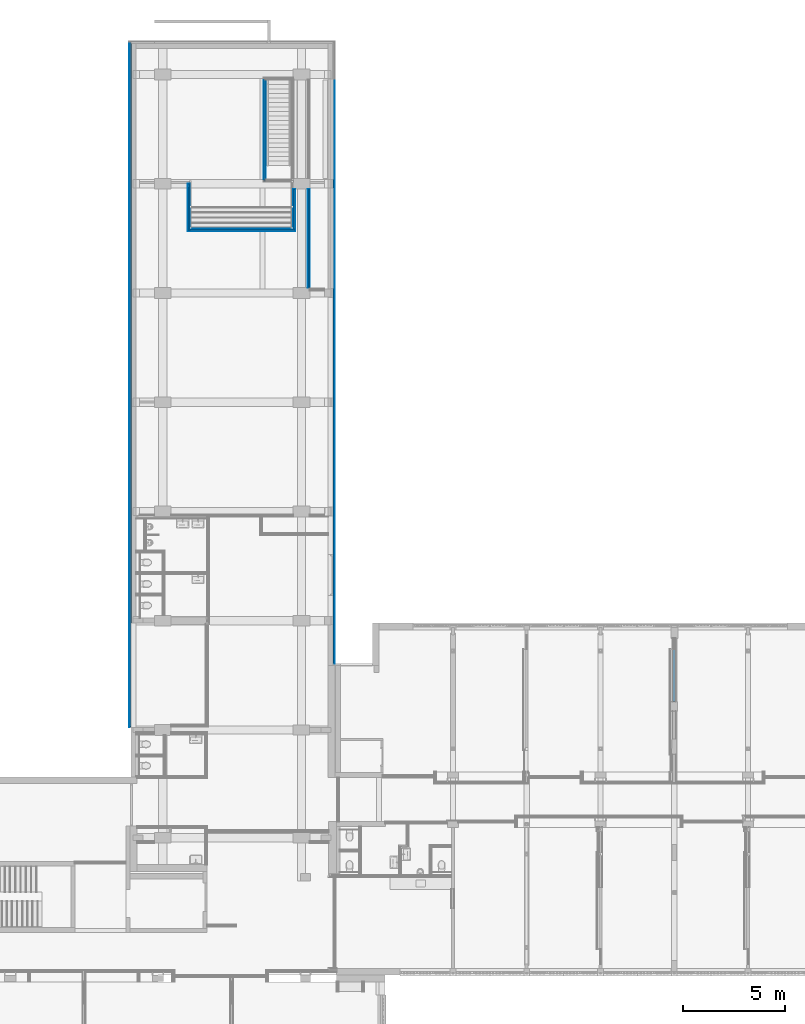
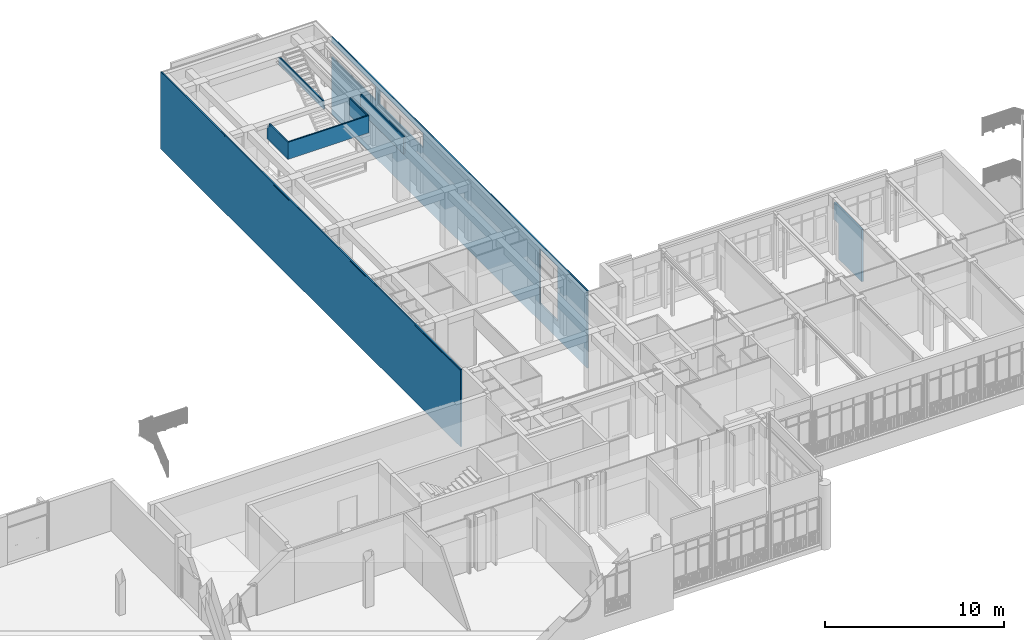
# One storey, part 113 of 135: 20 building element parts, 4 openings, 8 elements without a shape of their own.
"""IFC2X3 building model written with IfcOpenShell, lengths in millimetres."""

from ifc_helpers import new_model, entity, si_unit, converted_unit, derived_unit, money_unit, direction, frame, origin_with_axes, place, context, subcontext, project, spatial, faceted_brep, material, type_object, element, aggregate, save


model = new_model("IFC2X3")

# Units and contexts
model_context = context("Model", 3, precision=0.01, world=origin_with_axes(), true_north=direction((0.0, 1.0)))
body_context = subcontext(model_context, "Body", "Model", "MODEL_VIEW")
ifc_project = project(units=[si_unit("LENGTHUNIT", "METRE", prefix="MILLI"), si_unit("AREAUNIT", "SQUARE_METRE"), si_unit("VOLUMEUNIT", "CUBIC_METRE"), converted_unit("PLANEANGLEUNIT", "DEGREE", entity("IfcPlaneAngleMeasure", 0.0174532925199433), si_unit("PLANEANGLEUNIT", "RADIAN"), dimensions=[0, 0, 0, 0, 0, 0, 0]), money_unit("EUR"), converted_unit("TIMEUNIT", "Year", entity("IfcTimeMeasure", 31557600.0), si_unit("TIMEUNIT", "SECOND"), dimensions=[0, 0, 1, 0, 0, 0, 0]), si_unit("MASSUNIT", "GRAM", prefix="KILO"), si_unit("THERMODYNAMICTEMPERATUREUNIT", "DEGREE_CELSIUS"), si_unit("LUMINOUSINTENSITYUNIT", "LUMEN"), si_unit("ENERGYUNIT", "JOULE", prefix="MEGA"), derived_unit("THERMALCONDUCTANCEUNIT", [(si_unit("POWERUNIT", "WATT"), 1), (si_unit("LENGTHUNIT", "METRE"), -1), (si_unit("THERMODYNAMICTEMPERATUREUNIT", "KELVIN"), -1)]), derived_unit("SPECIFICHEATCAPACITYUNIT", [(si_unit("ENERGYUNIT", "JOULE"), 1), (si_unit("MASSUNIT", "GRAM", prefix="KILO"), -1), (si_unit("THERMODYNAMICTEMPERATUREUNIT", "KELVIN"), -1)]), derived_unit("MASSDENSITYUNIT", [(si_unit("MASSUNIT", "GRAM", prefix="KILO"), 1), (si_unit("VOLUMEUNIT", "CUBIC_METRE"), -1)])], contexts=[model_context])

# Site, building, storey
site_placement = place(None, origin_with_axes())
site = spatial("IfcSite", under=ifc_project, at=site_placement, Name="Site", CompositionType="ELEMENT")
building_placement = place(site_placement, origin_with_axes())
building = spatial("IfcBuilding", under=site, at=building_placement, Name="Naam gebouw", CompositionType="ELEMENT")
storey_placement = place(building_placement, origin_with_axes())
storey = spatial("IfcBuildingStorey", under=building, at=storey_placement, Name="Begane grond N", CompositionType="ELEMENT", Elevation=0.0)

# Wall, building element parts
wall_type_1 = type_object("IfcWallType", Name="Gevelstuc 90", PredefinedType="NOTDEFINED")
wall_1_placement = place(storey_placement, frame((20205.99999999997, 22755.92805130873, -1200.0), z_axis=(0.0, 0.0, 1.0), x_axis=(0.0, 1.0, 0.0)))
wall_1 = element("IfcWall", 1, at=wall_1_placement, inside=storey, type_object=wall_type_1, Name="_Wand-x")
ifc_material_1 = material(Name="stucwerk")
building_element_part_1_placement = place(wall_1_placement, origin_with_axes())
building_element_part_1 = element("IfcBuildingElementPart", 2, at=building_element_part_1_placement, material=ifc_material_1, Name="stucwerk", context=body_context, shape_type="Brep", body=[
    faceted_brep([(5074.984375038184, -5.000000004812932, 5270.000000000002), (5074.984375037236, -6.000000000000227, 5270.000000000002), (33459.98437379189, -5.999999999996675, 5270.000000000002), (33459.98437379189, 0.0, 5270.000000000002), (26769.98437498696, 0.0, 5270.000000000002), (26769.98437498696, -5.000000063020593, 5270.000000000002), (26369.98437496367, -5.000000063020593, 5270.000000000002), (26369.98437496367, 0.0, 5270.000000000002), (26304.98437501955, 0.0, 5270.000000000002), (26304.98437501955, -5.000000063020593, 5270.000000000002), (5074.984375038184, -6.000000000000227, 5180.000000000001), (5074.984375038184, -5.000000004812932, 5180.000000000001), (0.0, -6.000000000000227, 5180.000000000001), (0.0, -6.000000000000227, 0.0), (33459.98437379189, -5.999999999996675, 0.0), (33459.98437379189, 0.0, 0.0), (0.0, 0.0, 5180.000000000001), (26304.98437501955, 0.0, 5180.000000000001), (26369.98437496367, 0.0, 4980.0), (26769.98437498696, 0.0, 4980.0), (0.0, 0.0, 0.0), (26769.98437498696, -5.000000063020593, 4980.0), (26369.98437496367, -5.000000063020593, 4980.0), (26304.98437501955, -5.000000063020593, 5180.000000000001), (0.0, -5.000000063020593, 5180.000000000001)], [[[0, 1, 2, 3, 4, 5, 6, 7, 8, 9]], [[10, 1, 0, 11]], [[10, 12, 13, 14, 2, 1]], [[3, 2, 14, 15]], [[16, 17, 8, 7, 18, 19, 4, 3, 15, 20]], [[5, 4, 19, 21]], [[6, 5, 21, 22]], [[7, 6, 22, 18]], [[9, 8, 17, 23]], [[11, 0, 9, 23]], [[16, 24, 12, 10, 11, 23, 17]], [[24, 16, 20, 13, 12]], [[15, 14, 13, 20]], [[19, 18, 22, 21]]]),
])
ifc_material_2 = material(Name="Isolatie - Kunststof hard")
building_element_part_2_placement = place(wall_1_placement, origin_with_axes())
building_element_part_2 = element("IfcBuildingElementPart", 3, at=building_element_part_2_placement, material=ifc_material_2, Name="Isolatie - Kunststof hard", context=body_context, shape_type="Brep", body=[
    faceted_brep([(33453.98437379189, -5.999999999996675, 5270.000000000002), (0.0, -6.000000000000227, 5270.000000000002), (0.0, -89.99999999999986, 5270.000000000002), (33453.98437379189, -89.9999999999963, 5270.000000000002), (33453.98437379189, -5.999999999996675, 0.0), (0.0, -6.000000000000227, 0.0), (0.0, -89.99999999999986, 0.0), (33453.98437379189, -89.9999999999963, 0.0)], [[[0, 1, 2, 3]], [[4, 5, 1, 0]], [[2, 1, 5, 6]], [[3, 2, 6, 7]], [[3, 7, 4, 0]], [[7, 6, 5, 4]]]),
])
aggregate(wall_1, [building_element_part_1, building_element_part_2])

wall_type_2 = type_object("IfcWallType", Name="Metalstud iso 100 100", PredefinedType="NOTDEFINED")
wall_2_placement = place(storey_placement, frame((23160.00002619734, 49275.9124251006, 2689.99832424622), z_axis=(0.0, 0.0, 1.0), x_axis=(0.0, -1.0, 0.0)))
wall_2 = element("IfcWall", 4, at=wall_2_placement, inside=storey, type_object=wall_type_2, Name="_Wand-x")
ifc_material_3 = material(Name="Gipsplaat")
building_element_part_3_placement = place(wall_2_placement, origin_with_axes())
building_element_part_3 = element("IfcBuildingElementPart", 5, at=building_element_part_3_placement, material=ifc_material_3, Name="Gipsplaat", context=body_context, shape_type="Brep", body=[
    faceted_brep([(0.0, -12.49999999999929, 910.0016756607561), (0.0, 0.0, 910.0016756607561), (0.0, 0.0, 0.0), (0.0, -12.49999999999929, 0.0), (200.0000000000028, 0.0, 910.0016756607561), (200.0000000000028, -12.49999999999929, 910.0016756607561), (200.0000000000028, 0.0, 1160.00167575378), (2220.500008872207, 0.0, 1160.00167575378), (2220.500008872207, 0.0, 0.0), (2220.500008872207, -12.49999999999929, 0.0), (2220.500008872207, -12.49999999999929, 1160.00167575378), (200.0000000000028, -12.49999999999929, 1160.00167575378)], [[[0, 1, 2, 3]], [[4, 1, 0, 5]], [[4, 6, 7, 8, 2, 1]], [[2, 8, 9, 3]], [[5, 0, 3, 9, 10, 11]], [[11, 6, 4, 5]], [[6, 11, 10, 7]], [[8, 7, 10, 9]]]),
])
ifc_material_4 = material(Name="Isolatie - Steenwol LSW")
building_element_part_4_placement = place(wall_2_placement, origin_with_axes())
building_element_part_4 = element("IfcBuildingElementPart", 6, at=building_element_part_4_placement, material=ifc_material_4, Name="Isolatie - Steenwol LSW", context=body_context, shape_type="Brep", body=[
    faceted_brep([(0.0, -87.49999999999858, 910.0016756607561), (0.0, -12.49999999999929, 910.0016756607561), (0.0, -12.49999999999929, 0.0), (0.0, -87.49999999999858, 0.0), (200.0000000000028, -12.49999999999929, 910.0016756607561), (200.0000000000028, -87.49999999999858, 910.0016756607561), (200.0000000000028, -12.49999999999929, 1160.00167575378), (2295.500008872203, -12.49999999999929, 1160.00167575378), (2295.500008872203, -12.49999999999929, 0.0), (2295.500008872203, -87.49999999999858, 0.0), (2295.500008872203, -87.49999999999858, 1160.00167575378), (200.0000000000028, -87.49999999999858, 1160.00167575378)], [[[0, 1, 2, 3]], [[4, 1, 0, 5]], [[4, 6, 7, 8, 2, 1]], [[2, 8, 9, 3]], [[5, 0, 3, 9, 10, 11]], [[11, 6, 4, 5]], [[6, 11, 10, 7]], [[8, 7, 10, 9]]]),
])
building_element_part_5_placement = place(wall_2_placement, origin_with_axes())
building_element_part_5 = element("IfcBuildingElementPart", 7, at=building_element_part_5_placement, material=ifc_material_3, Name="Gipsplaat", context=body_context, shape_type="Brep", body=[
    faceted_brep([(0.0, -100.0000000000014, 910.0016756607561), (0.0, -87.49999999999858, 910.0016756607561), (0.0, -87.49999999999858, 0.0), (0.0, -100.0000000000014, 0.0), (200.0000000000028, -87.49999999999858, 910.0016756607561), (200.0000000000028, -100.0000000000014, 910.0016756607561), (200.0000000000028, -87.49999999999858, 1160.00167575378), (2308.000008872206, -87.49999999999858, 1160.00167575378), (2308.000008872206, -87.49999999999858, 0.0), (2308.000008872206, -100.0000000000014, 0.0), (2308.000008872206, -100.0000000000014, 1160.00167575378), (200.0000000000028, -100.0000000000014, 1160.00167575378)], [[[0, 1, 2, 3]], [[4, 1, 0, 5]], [[4, 6, 7, 8, 2, 1]], [[2, 8, 9, 3]], [[5, 0, 3, 9, 10, 11]], [[11, 6, 4, 5]], [[6, 11, 10, 7]], [[8, 7, 10, 9]]]),
])
aggregate(wall_2, [building_element_part_3, building_element_part_4, building_element_part_5])

# Wall, openings, building element parts
wall_3_placement = place(storey_placement, frame((30236.0, 54390.91242510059, -1200.0), z_axis=(0.0, 0.0, 1.0), x_axis=(0.0, -1.0, 0.0)))
wall_3 = element("IfcWall", 8, at=wall_3_placement, inside=storey, type_object=wall_type_1, Name="_Wand-x")
opening_1_placement = place(wall_3_placement, frame((2449.999999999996, 0.0, 3900.0), z_axis=(0.0, 0.0, 1.0), x_axis=(1.0, 0.0, 0.0)))
element("IfcOpeningElement", 9, at=opening_1_placement, cuts=wall_3, Name="_Merk-001", context=body_context, shape_type="Brep", body=[
    faceted_brep([(2449.999999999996, -19.99999999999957, 1000.0), (-2449.999999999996, -19.99999999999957, 1000.0), (-2449.999999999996, -91.00000000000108, 1000.0), (2449.999999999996, -91.00000000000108, 1000.0), (2449.999999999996, 1.000000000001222, 1000.0), (-2449.999999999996, 1.000000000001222, 1000.0), (-2449.999999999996, -19.99999999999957, 0.0), (-2449.999999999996, -91.00000000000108, 0.0), (2449.999999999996, -91.00000000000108, 0.0), (2449.999999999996, -19.99999999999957, 0.0), (2449.999999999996, 1.000000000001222, 0.0), (-2449.999999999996, 1.000000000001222, 0.0)], [[[0, 1, 2, 3]], [[1, 0, 4, 5]], [[1, 6, 7, 2]], [[2, 7, 8, 3]], [[9, 0, 3, 8]], [[0, 9, 10, 4]], [[4, 10, 11, 5]], [[6, 1, 5, 11]], [[6, 9, 8, 7]], [[9, 6, 11, 10]]]),
])
opening_2_placement = place(wall_3_placement, frame((7779.999999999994, 0.0, 3900.0), z_axis=(0.0, 0.0, 1.0), x_axis=(1.0, 0.0, 0.0)))
element("IfcOpeningElement", 10, at=opening_2_placement, cuts=wall_3, Name="_Merk-001", context=body_context, shape_type="Brep", body=[
    faceted_brep([(2449.999999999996, -19.99999999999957, 1000.0), (-2449.999999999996, -19.99999999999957, 1000.0), (-2449.999999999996, -91.00000000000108, 1000.0), (2449.999999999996, -91.00000000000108, 1000.0), (2449.999999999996, 1.000000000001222, 1000.0), (-2449.999999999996, 1.000000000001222, 1000.0), (-2449.999999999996, -19.99999999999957, 0.0), (-2449.999999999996, -91.00000000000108, 0.0), (2449.999999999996, -91.00000000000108, 0.0), (2449.999999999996, -19.99999999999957, 0.0), (2449.999999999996, 1.000000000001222, 0.0), (-2449.999999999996, 1.000000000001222, 0.0)], [[[0, 1, 2, 3]], [[1, 0, 4, 5]], [[1, 6, 7, 2]], [[2, 7, 8, 3]], [[9, 0, 3, 8]], [[0, 9, 10, 4]], [[4, 10, 11, 5]], [[6, 1, 5, 11]], [[6, 9, 8, 7]], [[9, 6, 11, 10]]]),
])
opening_3_placement = place(wall_3_placement, frame((24204.99999999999, 0.0, 1200.0), z_axis=(0.0, 0.0, 1.0), x_axis=(1.0, 0.0, 0.0)))
element("IfcOpeningElement", 11, at=opening_3_placement, cuts=wall_3, Name="_Merk-003", context=body_context, shape_type="Brep", body=[
    faceted_brep([(1000.0, -80.00000000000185, 3700.000000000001), (-1000.0, -79.9999999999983, 3700.000000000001), (-1000.0, -91.00000000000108, 3700.000000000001), (1000.0, -91.00000000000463, 3700.000000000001), (1000.0, 1.000000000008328, 3700.000000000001), (-1000.0, 1.00000000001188, 3700.000000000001), (-1000.0, -79.9999999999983, 0.0), (-1000.0, -91.00000000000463, 0.0), (1000.0, -91.00000000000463, 0.0), (1000.0, -80.00000000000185, 0.0), (1000.0, 1.000000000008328, 0.0), (-1000.0, 1.00000000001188, 0.0)], [[[0, 1, 2, 3]], [[1, 0, 4, 5]], [[1, 6, 7, 2]], [[2, 7, 8, 3]], [[9, 0, 3, 8]], [[0, 9, 10, 4]], [[4, 10, 11, 5]], [[6, 1, 5, 11]], [[6, 9, 8, 7]], [[9, 6, 11, 10]]]),
])
building_element_part_6_placement = place(wall_3_placement, origin_with_axes())
building_element_part_6 = element("IfcBuildingElementPart", 12, at=building_element_part_6_placement, material=ifc_material_1, Name="stucwerk", context=body_context, shape_type="Brep", body=[
    faceted_brep([(28530.01539902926, -6.00000000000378, 5270.000000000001), (0.0, -6.000000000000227, 5270.000000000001), (0.0, -6.000000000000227, 4900.0), (4899.999999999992, -6.000000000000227, 4900.0), (4899.999999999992, -6.000000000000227, 3906.347771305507), (4899.999999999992, -6.000000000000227, 3904.316918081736), (4899.999999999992, -6.000000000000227, 3900.0), (0.0, -6.000000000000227, 3900.0), (0.0, -6.000000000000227, 0.0), (28530.01539902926, -6.00000000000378, 0.0), (15210.99999882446, -6.000000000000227, 4350.000000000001), (21678.99999881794, -6.00000000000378, 4350.000000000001), (21678.99999881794, -6.00000000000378, 4180.000000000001), (15210.99999882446, -6.000000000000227, 4180.000000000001), (10229.99999999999, -6.000000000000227, 3904.316918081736), (10229.99999999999, -6.000000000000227, 3900.0), (5329.999999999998, -6.000000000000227, 3900.0), (5329.999999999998, -6.000000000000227, 3904.316918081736), (5329.999999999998, -6.000000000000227, 3906.347771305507), (5329.999999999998, -6.000000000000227, 4900.0), (10229.99999999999, -6.000000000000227, 4900.0), (10229.99999999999, -6.000000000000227, 3906.347771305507), (25204.99999999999, -6.00000000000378, 1200.0), (23204.99999999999, -6.00000000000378, 1200.0), (23204.99999999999, -6.00000000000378, 4900.000000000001), (25204.99999999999, -6.00000000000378, 4900.000000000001), (28530.01539902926, 0.0, 5270.000000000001), (0.0, 0.0, 5270.000000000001), (0.0, 0.0, 4900.0), (4899.999999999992, 0.0, 4900.0), (4899.999999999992, 0.0, 3905.289809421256), (4899.999999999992, 0.0, 3903.258956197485), (4899.999999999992, 0.0, 3900.0), (0.0, 0.0, 3900.0), (0.0, 0.0, 0.0), (28530.01539902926, 0.0, 0.0), (15210.99999882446, 0.0, 4350.000000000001), (21678.99999881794, 0.0, 4350.000000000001), (21678.99999881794, 0.0, 4180.000000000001), (15210.99999882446, 0.0, 4180.000000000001), (10229.99999999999, 0.0, 3900.0), (10229.99999999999, 0.0, 3903.258956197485), (5329.999999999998, 0.0, 3900.0), (5329.999999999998, 0.0, 3903.258956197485), (5329.999999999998, 0.0, 3905.289809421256), (5329.999999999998, 0.0, 4900.0), (10229.99999999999, 0.0, 4900.0), (10229.99999999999, 0.0, 3905.289809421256), (25204.99999999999, 0.0, 1200.0), (23204.99999999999, 0.0, 1200.0), (23204.99999999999, 0.0, 4900.000000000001), (25204.99999999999, 0.0, 4900.000000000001)], [[[0, 1, 2, 3, 4, 5, 6, 7, 8, 9], [10, 11, 12, 13], [14, 15, 16, 17, 18, 19, 20, 21], [22, 23, 24, 25]], [[26, 27, 1, 0]], [[2, 1, 27, 28]], [[28, 29, 3, 2]], [[30, 4, 3, 29]], [[30, 31, 5, 4]], [[31, 32, 6, 5]], [[33, 7, 6, 32]], [[33, 34, 8, 7]], [[9, 8, 34, 35]], [[9, 35, 26, 0]], [[11, 10, 36, 37]], [[12, 11, 37, 38]], [[13, 12, 38, 39]], [[10, 13, 39, 36]], [[40, 15, 14, 41]], [[16, 15, 40, 42]], [[17, 16, 42, 43]], [[17, 43, 44, 18]], [[19, 18, 44, 45]], [[20, 19, 45, 46]], [[21, 20, 46, 47]], [[41, 14, 21, 47]], [[48, 49, 23, 22]], [[49, 50, 24, 23]], [[50, 51, 25, 24]], [[51, 48, 22, 25]], [[33, 32, 31, 30, 29, 28, 27, 26, 35, 34], [36, 39, 38, 37], [45, 44, 43, 42, 40, 41, 47, 46], [48, 51, 50, 49]]]),
])
building_element_part_7_placement = place(wall_3_placement, origin_with_axes())
building_element_part_7 = element("IfcBuildingElementPart", 13, at=building_element_part_7_placement, material=ifc_material_2, Name="Isolatie - Kunststof hard", context=body_context, shape_type="Brep", body=[
    faceted_brep([(23204.99999999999, -79.9999999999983, 1200.0), (23204.99999999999, -79.9999999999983, 4900.000000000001), (23204.99999999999, -90.00000000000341, 4900.000000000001), (23204.99999999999, -90.00000000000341, 1200.0), (23204.99999999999, -6.00000000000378, 1200.0), (23204.99999999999, -6.00000000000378, 4900.000000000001), (25204.99999999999, -80.00000000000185, 4900.000000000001), (25204.99999999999, -90.00000000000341, 4900.000000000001), (4899.999999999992, -89.99999999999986, 4900.0), (4899.999999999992, -89.99999999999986, 3900.0), (0.0, -89.99999999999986, 3900.0), (0.0, -89.99999999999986, 0.0), (28530.01539902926, -90.00000000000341, 0.0), (28530.01539902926, -90.00000000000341, 5270.000000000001), (0.0, -89.99999999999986, 5270.000000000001), (0.0, -89.99999999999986, 4900.0), (5329.999999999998, -89.99999999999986, 3900.0), (5329.999999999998, -89.99999999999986, 4900.0), (10229.99999999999, -89.99999999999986, 4900.0), (10229.99999999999, -89.99999999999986, 3900.0), (25204.99999999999, -90.00000000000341, 1200.0), (25204.99999999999, -80.00000000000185, 1200.0), (28530.01539902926, -6.00000000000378, 5270.000000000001), (28530.01539902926, -6.00000000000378, 0.0), (0.0, -6.000000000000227, 0.0), (0.0, -6.000000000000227, 3900.0), (4899.999999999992, -6.000000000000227, 3900.0), (4899.999999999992, -6.000000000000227, 3904.316918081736), (4899.999999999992, -6.000000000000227, 3906.347771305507), (4899.999999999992, -6.000000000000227, 4900.0), (0.0, -6.000000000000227, 4900.0), (0.0, -6.000000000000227, 5270.000000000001), (5329.999999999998, -6.000000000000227, 3904.316918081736), (5329.999999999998, -6.000000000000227, 3900.0), (10229.99999999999, -6.000000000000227, 3900.0), (10229.99999999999, -6.000000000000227, 3904.316918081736), (10229.99999999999, -6.000000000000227, 3906.347771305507), (10229.99999999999, -6.000000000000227, 4900.0), (5329.999999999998, -6.000000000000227, 4900.0), (5329.999999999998, -6.000000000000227, 3906.347771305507), (25204.99999999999, -6.00000000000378, 1200.0), (25204.99999999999, -6.00000000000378, 4900.000000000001), (4899.999999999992, -76.99999999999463, 3928.51433297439), (4899.999999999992, -76.99999999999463, 3916.836133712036), (4899.999999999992, -19.99999999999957, 3906.785495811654), (4899.999999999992, -19.99999999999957, 3900.0), (4899.999999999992, -19.99999999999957, 4900.0), (4899.999999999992, -19.99999999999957, 3908.816349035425), (4899.999999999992, -74.99999999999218, 3918.514332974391), (4899.999999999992, -74.99999999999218, 3928.51433297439), (0.0, -19.99999999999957, 3900.0), (0.0, -19.99999999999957, 4900.0), (5329.999999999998, -74.99999999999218, 3928.51433297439), (5329.999999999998, -74.99999999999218, 3918.514332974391), (5329.999999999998, -19.99999999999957, 3908.816349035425), (5329.999999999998, -19.99999999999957, 4900.0), (5329.999999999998, -19.99999999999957, 3900.0), (5329.999999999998, -19.99999999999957, 3906.785495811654), (5329.999999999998, -76.99999999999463, 3916.836133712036), (5329.999999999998, -76.99999999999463, 3928.51433297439), (10229.99999999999, -19.99999999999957, 4900.0), (10229.99999999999, -19.99999999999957, 3908.816349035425), (10229.99999999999, -74.99999999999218, 3918.514332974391), (10229.99999999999, -74.99999999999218, 3928.51433297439), (10229.99999999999, -76.99999999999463, 3928.51433297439), (10229.99999999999, -76.99999999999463, 3916.836133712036), (10229.99999999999, -19.99999999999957, 3906.785495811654), (10229.99999999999, -19.99999999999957, 3900.0)], [[[0, 1, 2, 3]], [[4, 5, 1, 0]], [[1, 6, 7, 2]], [[8, 9, 10, 11, 12, 13, 14, 15], [16, 17, 18, 19], [3, 2, 7, 20]], [[21, 0, 3, 20]], [[22, 23, 24, 25, 26, 27, 28, 29, 30, 31], [32, 33, 34, 35, 36, 37, 38, 39], [40, 41, 5, 4]], [[5, 41, 6, 1]], [[40, 4, 0, 21]], [[6, 21, 20, 7]], [[42, 43, 44, 45, 9, 8, 46, 47, 48, 49]], [[10, 9, 45, 50]], [[10, 50, 25, 24, 11]], [[12, 11, 24, 23]], [[12, 23, 22, 13]], [[22, 31, 14, 13]], [[31, 30, 51, 15, 14]], [[8, 15, 51, 46]], [[52, 53, 54, 55, 17, 16, 56, 57, 58, 59]], [[55, 60, 18, 17]], [[19, 18, 60, 61, 62, 63, 64, 65, 66, 67]], [[67, 56, 16, 19]], [[50, 45, 26, 25]], [[26, 45, 44, 27]], [[27, 44, 43, 42, 49, 48, 47, 28]], [[47, 46, 29, 28]], [[29, 46, 51, 30]], [[33, 32, 57, 56]], [[34, 33, 56, 67]], [[66, 35, 34, 67]], [[65, 64, 63, 62, 61, 36, 35, 66]], [[37, 36, 61, 60]], [[38, 37, 60, 55]], [[39, 38, 55, 54]], [[59, 58, 57, 32, 39, 54, 53, 52]], [[41, 40, 21, 6]]]),
])
aggregate(wall_3, [building_element_part_6, building_element_part_7])

# Wall, building element parts
wall_4_placement = place(storey_placement, frame((28195.99999999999, 47067.9124162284, 2689.99832424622), z_axis=(0.0, 0.0, 1.0), x_axis=(0.0, 1.0, 0.0)))
wall_4 = element("IfcWall", 14, at=wall_4_placement, inside=storey, type_object=wall_type_2, Name="_Wand-x")
building_element_part_8_placement = place(wall_4_placement, origin_with_axes())
building_element_part_8 = element("IfcBuildingElementPart", 15, at=building_element_part_8_placement, material=ifc_material_3, Name="Gipsplaat", context=body_context, shape_type="Brep", body=[
    faceted_brep([(1945.500008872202, 0.0, 0.0), (1945.500008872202, 0.0, 1160.00167575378), (1945.500008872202, -12.49999999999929, 1160.00167575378), (1945.500008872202, -12.49999999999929, 0.0), (0.0, 0.0, 0.0), (0.0, 0.0, 1160.00167575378), (0.0, -12.49999999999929, 1160.00167575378), (0.0, -12.49999999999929, 0.0)], [[[0, 1, 2, 3]], [[4, 5, 1, 0]], [[5, 6, 2, 1]], [[3, 2, 6, 7]], [[7, 4, 0, 3]], [[7, 6, 5, 4]]]),
])
building_element_part_9_placement = place(wall_4_placement, origin_with_axes())
building_element_part_9 = element("IfcBuildingElementPart", 16, at=building_element_part_9_placement, material=ifc_material_4, Name="Isolatie - Steenwol LSW", context=body_context, shape_type="Brep", body=[
    faceted_brep([(1945.500008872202, -12.49999999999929, 0.0), (1945.500008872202, -12.49999999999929, 1160.00167575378), (1945.500008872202, -87.49999999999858, 1160.00167575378), (1945.500008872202, -87.49999999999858, 0.0), (-12.50000000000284, -12.49999999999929, 0.0), (-12.50000000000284, -12.49999999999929, 1160.00167575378), (-12.50000000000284, -87.49999999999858, 1160.00167575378), (-12.50000000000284, -87.49999999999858, 0.0)], [[[0, 1, 2, 3]], [[4, 5, 1, 0]], [[5, 6, 2, 1]], [[3, 2, 6, 7]], [[7, 4, 0, 3]], [[7, 6, 5, 4]]]),
])
building_element_part_10_placement = place(wall_4_placement, origin_with_axes())
building_element_part_10 = element("IfcBuildingElementPart", 17, at=building_element_part_10_placement, material=ifc_material_3, Name="Gipsplaat", context=body_context, shape_type="Brep", body=[
    faceted_brep([(1945.500008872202, -87.49999999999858, 0.0), (1945.500008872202, -87.49999999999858, 1160.00167575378), (1945.500008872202, -100.0000000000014, 1160.00167575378), (1945.500008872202, -100.0000000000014, 0.0), (-87.49999999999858, -87.49999999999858, 0.0), (-87.49999999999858, -87.49999999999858, 1160.00167575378), (-87.49999999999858, -100.0000000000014, 1160.00167575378), (-87.49999999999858, -100.0000000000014, 0.0)], [[[0, 1, 2, 3]], [[4, 5, 1, 0]], [[5, 6, 2, 1]], [[3, 2, 6, 7]], [[7, 4, 0, 3]], [[7, 6, 5, 4]]]),
])
aggregate(wall_4, [building_element_part_8, building_element_part_9, building_element_part_10])

wall_5_placement = place(storey_placement, frame((29015.99992027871, 49013.41241308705, 2689.99832424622), z_axis=(0.0, 0.0, 1.0), x_axis=(0.0, -1.0, 0.0)))
wall_5 = element("IfcWall", 18, at=wall_5_placement, inside=storey, type_object=wall_type_2, Name="_Wand-x")
building_element_part_11_placement = place(wall_5_placement, origin_with_axes())
building_element_part_11 = element("IfcBuildingElementPart", 19, at=building_element_part_11_placement, material=ifc_material_3, Name="Gipsplaat", context=body_context, shape_type="Brep", body=[
    faceted_brep([(0.0, -12.49999999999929, 0.0), (0.0, -12.49999999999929, 1160.00167575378), (0.0, 0.0, 1160.00167575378), (0.0, 0.0, 0.0), (4804.999987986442, -12.49999999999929, 0.0), (4804.999987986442, -12.49999999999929, 1160.00167575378), (4804.999987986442, 0.0, 1160.00167575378), (4804.999987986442, 0.0, 0.0)], [[[0, 1, 2, 3]], [[4, 5, 1, 0]], [[5, 6, 2, 1]], [[3, 2, 6, 7]], [[0, 3, 7, 4]], [[7, 6, 5, 4]]]),
])
building_element_part_12_placement = place(wall_5_placement, origin_with_axes())
building_element_part_12 = element("IfcBuildingElementPart", 20, at=building_element_part_12_placement, material=ifc_material_4, Name="Isolatie - Steenwol LSW", context=body_context, shape_type="Brep", body=[
    faceted_brep([(0.0, -87.49999999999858, 0.0), (0.0, -87.49999999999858, 1160.00167575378), (0.0, -12.49999999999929, 1160.00167575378), (0.0, -12.49999999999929, 0.0), (4804.999987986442, -87.50000000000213, 0.0), (4804.999987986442, -87.50000000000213, 1160.00167575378), (4804.999987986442, -12.49999999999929, 1160.00167575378), (4804.999987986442, -12.49999999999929, 0.0)], [[[0, 1, 2, 3]], [[4, 5, 1, 0]], [[5, 6, 2, 1]], [[3, 2, 6, 7]], [[0, 3, 7, 4]], [[7, 6, 5, 4]]]),
])
building_element_part_13_placement = place(wall_5_placement, origin_with_axes())
building_element_part_13 = element("IfcBuildingElementPart", 21, at=building_element_part_13_placement, material=ifc_material_3, Name="Gipsplaat", context=body_context, shape_type="Brep", body=[
    faceted_brep([(0.0, -100.0000000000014, 0.0), (0.0, -100.0000000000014, 1160.00167575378), (0.0, -87.49999999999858, 1160.00167575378), (0.0, -87.49999999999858, 0.0), (4804.999987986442, -100.0000000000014, 0.0), (4804.999987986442, -100.0000000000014, 1160.00167575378), (4804.999987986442, -87.50000000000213, 1160.00167575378), (4804.999987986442, -87.50000000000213, 0.0)], [[[0, 1, 2, 3]], [[4, 5, 1, 0]], [[5, 6, 2, 1]], [[3, 2, 6, 7]], [[0, 3, 7, 4]], [[7, 6, 5, 4]]]),
])
aggregate(wall_5, [building_element_part_11, building_element_part_12, building_element_part_13])

wall_6_placement = place(storey_placement, frame((26865.99999999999, 54343.41242510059, 3339.997968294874), z_axis=(0.0, 0.0, 1.0), x_axis=(0.0, -1.0, 0.0)))
wall_6 = element("IfcWall", 22, at=wall_6_placement, inside=storey, type_object=wall_type_2, Name="_Wand-x")
building_element_part_14_placement = place(wall_6_placement, origin_with_axes())
building_element_part_14 = element("IfcBuildingElementPart", 23, at=building_element_part_14_placement, material=ifc_material_3, Name="Gipsplaat", context=body_context, shape_type="Brep", body=[
    faceted_brep([(4867.499999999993, -12.49999999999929, 510.0020317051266), (4867.499999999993, 0.0, 510.0020317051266), (0.0, 0.0, 510.0020317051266), (0.0, -12.49999999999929, 510.0020317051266), (4867.499999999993, 0.0, 260.0020316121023), (4867.499999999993, -12.49999999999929, 260.0020316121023), (4879.999999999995, 0.0, 260.0020316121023), (4879.999999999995, 0.0, 0.0), (0.0, 0.0, 0.0), (0.0, -12.49999999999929, 0.0), (4879.999999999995, -12.49999999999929, 0.0), (4879.999999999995, -12.49999999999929, 260.0020316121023)], [[[0, 1, 2, 3]], [[4, 1, 0, 5]], [[4, 6, 7, 8, 2, 1]], [[9, 3, 2, 8]], [[5, 0, 3, 9, 10, 11]], [[6, 4, 5, 11]], [[6, 11, 10, 7]], [[8, 7, 10, 9]]]),
])
building_element_part_15_placement = place(wall_6_placement, origin_with_axes())
building_element_part_15 = element("IfcBuildingElementPart", 24, at=building_element_part_15_placement, material=ifc_material_4, Name="Isolatie - Steenwol LSW", context=body_context, shape_type="Brep", body=[
    faceted_brep([(4867.499999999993, -87.50000000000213, 510.0020317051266), (4867.499999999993, -12.49999999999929, 510.0020317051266), (-12.50000000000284, -12.49999999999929, 510.0020317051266), (-12.50000000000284, -87.49999999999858, 510.0020317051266), (4867.499999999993, -12.49999999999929, 260.0020316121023), (4867.499999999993, -87.50000000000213, 260.0020316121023), (4954.999999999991, -12.49999999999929, 260.0020316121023), (4954.999999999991, -12.49999999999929, 0.0), (-12.50000000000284, -12.49999999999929, 0.0), (-12.50000000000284, -87.49999999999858, 0.0), (4954.999999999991, -87.50000000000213, 0.0), (4954.999999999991, -87.50000000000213, 260.0020316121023)], [[[0, 1, 2, 3]], [[4, 1, 0, 5]], [[4, 6, 7, 8, 2, 1]], [[9, 3, 2, 8]], [[5, 0, 3, 9, 10, 11]], [[6, 4, 5, 11]], [[6, 11, 10, 7]], [[8, 7, 10, 9]]]),
])
building_element_part_16_placement = place(wall_6_placement, origin_with_axes())
building_element_part_16 = element("IfcBuildingElementPart", 25, at=building_element_part_16_placement, material=ifc_material_3, Name="Gipsplaat", context=body_context, shape_type="Brep", body=[
    faceted_brep([(-87.49999999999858, -100.0000000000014, 40.00000000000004), (-87.49999999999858, -87.49999999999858, 40.00000000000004), (-87.49999999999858, -87.49999999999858, 0.0), (-87.49999999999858, -100.0000000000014, 0.0), (-62.5, -87.49999999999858, 40.00000000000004), (-62.5, -100.0000000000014, 40.00000000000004), (-62.5, -87.49999999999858, 510.0020317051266), (4867.499999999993, -87.50000000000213, 510.0020317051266), (4867.499999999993, -87.49999999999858, 260.0020316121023), (4967.499999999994, -87.50000000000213, 260.0020316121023), (4967.499999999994, -87.50000000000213, 0.0), (4967.499999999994, -100.0000000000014, 0.0), (4967.499999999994, -100.0000000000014, 260.0020316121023), (4867.499999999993, -100.0000000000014, 260.0020316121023), (4867.499999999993, -100.0000000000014, 510.0020317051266), (-62.5, -100.0000000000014, 510.0020317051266)], [[[0, 1, 2, 3]], [[4, 1, 0, 5]], [[4, 6, 7, 8, 9, 10, 2, 1]], [[2, 10, 11, 3]], [[5, 0, 3, 11, 12, 13, 14, 15]], [[15, 6, 4, 5]], [[6, 15, 14, 7]], [[8, 7, 14, 13]], [[9, 8, 13, 12]], [[9, 12, 11, 10]]]),
])
aggregate(wall_6, [building_element_part_14, building_element_part_15, building_element_part_16])

# Wall, opening, building element part
wall_type_3 = type_object("IfcWallType", Name="Metalstud iso 150 150", PredefinedType="NOTDEFINED")
wall_7_placement = place(storey_placement, frame((46800.00000000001, 27085.91242510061, 0.0), z_axis=(0.0, 0.0, 1.0), x_axis=(0.0, -1.0, 0.0)))
wall_7 = element("IfcWall", 26, at=wall_7_placement, inside=storey, type_object=wall_type_3, Name="_Wand-x")
opening_4_placement = place(wall_7_placement, frame((260.0000000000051, 0.0, 0.0), z_axis=(0.0, 0.0, 1.0), x_axis=(1.0, 0.0, 0.0)))
element("IfcOpeningElement", 27, at=opening_4_placement, cuts=wall_7, Name="_Merk-002", context=body_context, shape_type="Brep", body=[
    faceted_brep([(260.0000000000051, -10.00000000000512, 0.0), (260.0000000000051, -10.00000000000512, 2400.0), (260.0000000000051, -76.00000000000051, 2400.0), (260.0000000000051, -76.00000000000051, 0.0), (260.0000000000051, 76.00000000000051, 0.0), (260.0000000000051, 76.00000000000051, 2400.0), (-260.0000000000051, -10.00000000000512, 2400.0), (-260.0000000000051, -76.00000000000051, 2400.0), (-260.0000000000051, 76.00000000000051, 2400.0), (-260.0000000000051, -76.00000000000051, 0.0), (-260.0000000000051, -10.00000000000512, 0.0), (-260.0000000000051, 76.00000000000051, 0.0)], [[[0, 1, 2, 3]], [[1, 0, 4, 5]], [[6, 7, 2, 1, 5, 8]], [[7, 9, 3, 2]], [[0, 3, 9, 10, 11, 4]], [[5, 4, 11, 8]], [[6, 10, 9, 7]], [[10, 6, 8, 11]]]),
])
building_element_part_17_placement = place(wall_7_placement, origin_with_axes())
building_element_part_17 = element("IfcBuildingElementPart", 28, at=building_element_part_17_placement, material=ifc_material_4, Name="Isolatie - Steenwol LSW", context=body_context, shape_type="Brep", body=[
    faceted_brep([(520.0000000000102, 62.5, 0.0), (520.0000000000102, 62.5, 2400.0), (0.0, 62.5, 2400.0), (0.0, 62.5, 3550.0), (3078.634891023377, 62.5, 3550.0), (3078.634891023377, 62.5, 0.0), (520.0000000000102, -10.00000000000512, 0.0), (520.0000000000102, -62.5, 0.0), (520.0000000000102, -62.5, 2400.0), (0.0, -10.00000000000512, 2400.0), (0.0, -62.5, 2400.0), (0.0, -62.5, 3550.0), (3078.223948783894, -62.5, 3550.0), (3078.223948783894, -62.5, 0.0)], [[[0, 1, 2, 3, 4, 5]], [[1, 0, 6, 7, 8]], [[9, 2, 1, 8, 10]], [[2, 9, 10, 11, 3]], [[3, 11, 12, 4]], [[12, 13, 5, 4]], [[6, 0, 5, 13, 7]], [[12, 11, 10, 8, 7, 13]]]),
])
aggregate(wall_7, [building_element_part_17])

# Wall, building element parts
wall_8_placement = place(storey_placement, frame((23160.00002619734, 47067.9124162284, 2689.99832424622), z_axis=(0.0, 0.0, 1.0), x_axis=(1.0, 0.0, 0.0)))
wall_8 = element("IfcWall", 29, at=wall_8_placement, inside=storey, type_object=wall_type_2, Name="_Wand-x")
building_element_part_18_placement = place(wall_8_placement, origin_with_axes())
building_element_part_18 = element("IfcBuildingElementPart", 30, at=building_element_part_18_placement, material=ifc_material_3, Name="Gipsplaat", context=body_context, shape_type="Brep", body=[
    faceted_brep([(0.0, 0.0, 1160.00167575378), (5048.499973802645, 0.0, 1160.00167575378), (5048.499973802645, 0.0, 0.0), (0.0, 0.0, 0.0), (5048.499973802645, -12.50000000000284, 1160.00167575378), (0.0, -12.50000000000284, 1160.00167575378), (5048.499973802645, -12.50000000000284, 0.0), (0.0, -12.50000000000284, 0.0)], [[[0, 1, 2, 3]], [[4, 1, 0, 5]], [[1, 4, 6, 2]], [[2, 6, 7, 3]], [[5, 0, 3, 7]], [[4, 5, 7, 6]]]),
])
building_element_part_19_placement = place(wall_8_placement, origin_with_axes())
building_element_part_19 = element("IfcBuildingElementPart", 31, at=building_element_part_19_placement, material=ifc_material_4, Name="Isolatie - Steenwol LSW", context=body_context, shape_type="Brep", body=[
    faceted_brep([(-12.49999999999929, -12.50000000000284, 1160.00167575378), (5123.499973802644, -12.50000000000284, 1160.00167575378), (5123.499973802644, -12.50000000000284, 0.0), (-12.49999999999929, -12.50000000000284, 0.0), (5123.499973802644, -87.49999999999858, 1160.00167575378), (-12.49999999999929, -87.49999999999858, 1160.00167575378), (5123.499973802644, -87.49999999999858, 0.0), (-12.49999999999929, -87.49999999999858, 0.0)], [[[0, 1, 2, 3]], [[4, 1, 0, 5]], [[1, 4, 6, 2]], [[2, 6, 7, 3]], [[5, 0, 3, 7]], [[4, 5, 7, 6]]]),
])
building_element_part_20_placement = place(wall_8_placement, origin_with_axes())
building_element_part_20 = element("IfcBuildingElementPart", 32, at=building_element_part_20_placement, material=ifc_material_3, Name="Gipsplaat", context=body_context, shape_type="Brep", body=[
    faceted_brep([(-87.49999999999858, -87.49999999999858, 1160.00167575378), (5135.999973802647, -87.49999999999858, 1160.00167575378), (5135.999973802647, -87.49999999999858, 0.0), (-87.49999999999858, -87.49999999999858, 0.0), (5135.999973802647, -100.0000000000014, 1160.00167575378), (-87.49999999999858, -100.0000000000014, 1160.00167575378), (5135.999973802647, -100.0000000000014, 0.0), (-87.49999999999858, -100.0000000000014, 0.0)], [[[0, 1, 2, 3]], [[4, 1, 0, 5]], [[1, 4, 6, 2]], [[2, 6, 7, 3]], [[5, 0, 3, 7]], [[4, 5, 7, 6]]]),
])
aggregate(wall_8, [building_element_part_18, building_element_part_19, building_element_part_20])

save(model, "model.ifc")
